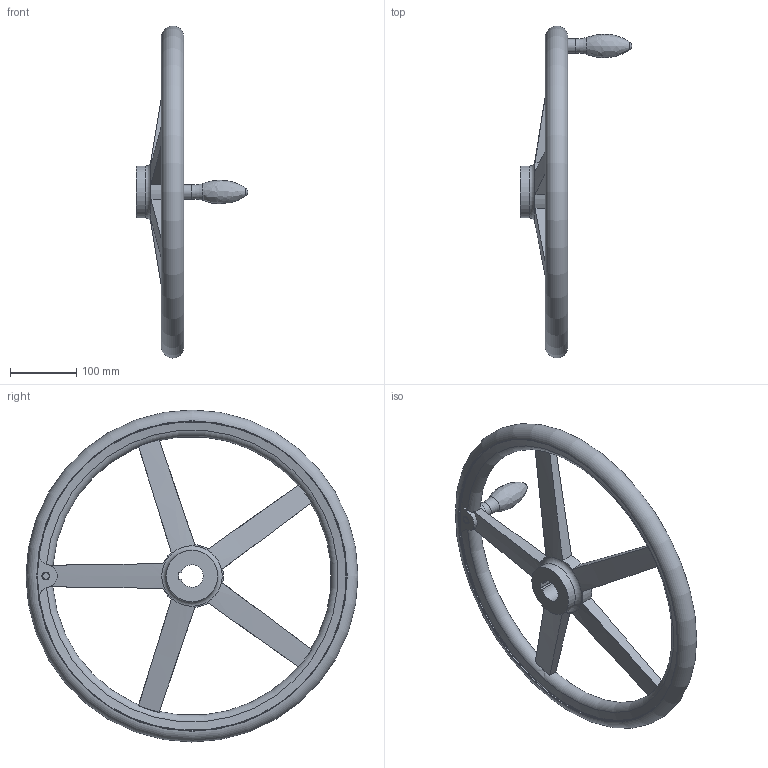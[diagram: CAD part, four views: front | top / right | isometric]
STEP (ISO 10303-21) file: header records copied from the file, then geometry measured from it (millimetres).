
FILE_DESCRIPTION( ( 'STEP AP203' ), '1' );
FILE_NAME( 'C:/Temp/Ganter_Step_05_03_2020/data/1_3/din_950/din_950_k/din_950_k_f/Handwheel DIN 950-GG-500-K34-F.stp', '2020-03-05T10:31:28', ( 'License CC BY-ND 4.0' ), ( 'CADENAS' ), ' ', 'PARTsolutions', ' ' );
FILE_SCHEMA( ( 'CONFIG_CONTROL_DESIGN' ) );
Length unit declared in the file: millimetre
Products named in the file (1): _Handwheel DIN 950-GG-500-K34-F
Bounding box: 168.5 x 499.98 x 499.98 mm (x, y, z)
Volume: 2148622.9 mm3; surface area: 288495.1 mm2
Topology: 1 solids, 1 shells, 66 faces, 196 edges, 127 vertices
Faces by surface type: torus 21, cylinder 20, plane 18, cone 5, sphere 1, bspline 1
Full cylindrical faces by diameter (mm): 12 x1, 21.8 x1, 78 x2, 466 x2
Entity records: 2669 total; most frequent: CARTESIAN_POINT 1042, ORIENTED_EDGE 338, DIRECTION 300, EDGE_CURVE 169, AXIS2_PLACEMENT_3D 137, VERTEX_POINT 121, EDGE_LOOP 92, FACE_OUTER_BOUND 81
